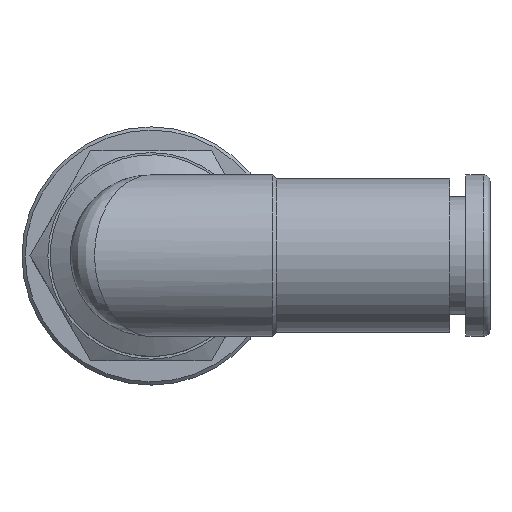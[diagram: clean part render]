
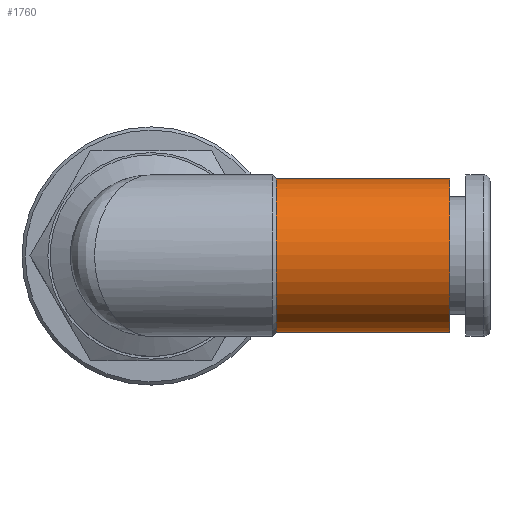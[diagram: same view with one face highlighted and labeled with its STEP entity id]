
A CAD part, top view. The second image highlights one B-rep face of the part: STEP entity #1760.
In plain terms, the highlighted cylindrical face has radius 4.75 mm (diameter 9.5 mm), a full revolution.
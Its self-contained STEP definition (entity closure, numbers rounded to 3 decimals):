
#1760=ADVANCED_FACE('', (#1770,#1780), #1790, .T.);
#5380=AXIS2_PLACEMENT_3D('Ax2Pl3d', #5390, #5400, #5410);
#6780=AXIS2_PLACEMENT_3D('Ax2Pl3d', #6790, #6800, #6810);
#6820=AXIS2_PLACEMENT_3D('Ax2Pl3d', #6830, #6840, #6850);
#5390=CARTESIAN_POINT('HicPkt', (33.194,13.018,16.368)
);
#21590=CARTESIAN_POINT('', (33.194,13.018,21.118));
#6790=CARTESIAN_POINT('HicPkt', (22.444,13.018,
16.368));
#6830=CARTESIAN_POINT('HicPkt', (22.444,13.018,16.368)
);
#21800=CARTESIAN_POINT('', (22.444,13.018,21.118));
#22590=CIRCLE('Circle', #5380, 4.75);
#22750=CIRCLE('Circle', #6820, 4.75);
#1790=CYLINDRICAL_SURFACE('Zyl', #6780, 4.75);
#5400=DIRECTION('Axis', (1.,0.,0.));
#5410=DIRECTION('RefDirection', (0.,0.,-1.));
#6800=DIRECTION('Axis', (1.,0.,0.));
#6810=DIRECTION('RefDirection', (0.,0.,-1.));
#6840=DIRECTION('Axis', (1.,0.,0.));
#6850=DIRECTION('RefDirection', (0.,0.,-1.));
#26440=EDGE_CURVE('', #26450, #26450, #22590, .T.);
#26940=EDGE_CURVE('', #26950, #26950, #22750, .T.);
#29650=EDGE_LOOP('Edge_loop', (#29660));
#29670=EDGE_LOOP('Edge_loop', (#29680));
#1780=FACE_BOUND('', #29670, .T.);
#1770=FACE_OUTER_BOUND('Face_outer_bound', #29650, .T.);
#29660=ORIENTED_EDGE('', *, *, #26440, .F.);
#29680=ORIENTED_EDGE('', *, *, #26940, .T.);
#26450=VERTEX_POINT('', #21590);
#26950=VERTEX_POINT('', #21800);
